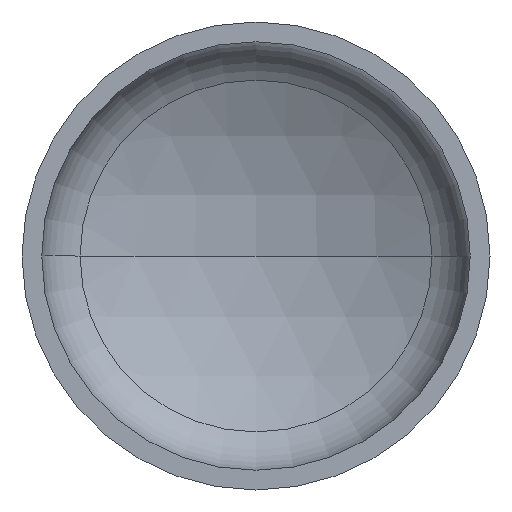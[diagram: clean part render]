
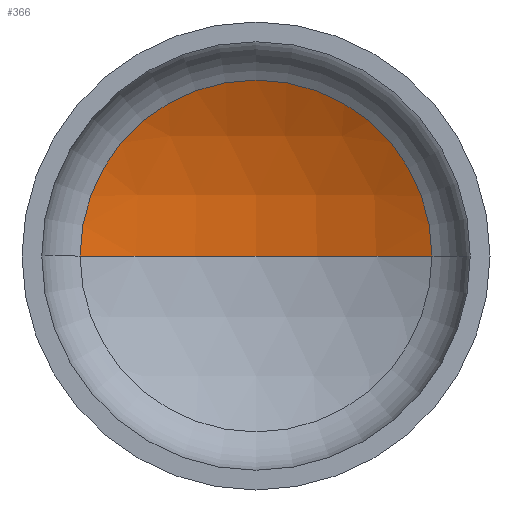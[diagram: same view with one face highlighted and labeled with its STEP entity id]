
A CAD part, front view. The second image highlights one B-rep face of the part: STEP entity #366.
In plain terms, the highlighted spherical face has radius 284 mm.
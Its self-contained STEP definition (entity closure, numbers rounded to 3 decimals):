
#14 = ORIENTED_EDGE ( 'NONE', *, *, #152, .T. ) ;
#21 = EDGE_LOOP ( 'NONE', ( #119, #14, #94 ) ) ;
#22 = DIRECTION ( 'NONE',  ( 1., 0., 0. ) ) ;
#79 = DIRECTION ( 'NONE',  ( 0., 0., 1. ) ) ;
#88 = AXIS2_PLACEMENT_3D ( 'NONE', #281, #79, #22 ) ;
#92 = AXIS2_PLACEMENT_3D ( 'NONE', #225, #228, #221 ) ;
#94 = ORIENTED_EDGE ( 'NONE', *, *, #151, .T. ) ;
#98 = AXIS2_PLACEMENT_3D ( 'NONE', #205, #303, #300 ) ;
#106 = VERTEX_POINT ( 'NONE', #241 ) ;
#118 = VERTEX_POINT ( 'NONE', #239 ) ;
#119 = ORIENTED_EDGE ( 'NONE', *, *, #156, .F. ) ;
#141 = CARTESIAN_POINT ( 'NONE',  ( 0., -157.04, 0. ) ) ;
#151 = EDGE_CURVE ( 'NONE', #106, #264, #310, .T. ) ;
#152 = EDGE_CURVE ( 'NONE', #118, #106, #362, .T. ) ;
#156 = EDGE_CURVE ( 'NONE', #118, #264, #357, .T. ) ;
#166 = AXIS2_PLACEMENT_3D ( 'NONE', #141, #240, #393 ) ;
#193 = SPHERICAL_SURFACE ( 'NONE', #166, 284. ) ;
#205 = CARTESIAN_POINT ( 'NONE',  ( 0., 93.525, 0. ) ) ;
#221 = DIRECTION ( 'NONE',  ( -1., 0., 0. ) ) ;
#225 = CARTESIAN_POINT ( 'NONE',  ( 0., -157.04, 0. ) ) ;
#228 = DIRECTION ( 'NONE',  ( 0., 0., -1. ) ) ;
#239 = CARTESIAN_POINT ( 'NONE',  ( 0., 126.96, 0. ) ) ;
#240 = DIRECTION ( 'NONE',  ( 0., 0., -1. ) ) ;
#241 = CARTESIAN_POINT ( 'NONE',  ( 133.691, 93.525, 0. ) ) ;
#264 = VERTEX_POINT ( 'NONE', #391 ) ;
#281 = CARTESIAN_POINT ( 'NONE',  ( 0., -157.04, 0. ) ) ;
#300 = DIRECTION ( 'NONE',  ( 1., 0., 0. ) ) ;
#303 = DIRECTION ( 'NONE',  ( 0., -1., 0. ) ) ;
#310 = CIRCLE ( 'NONE', #98, 133.691 ) ;
#313 = FACE_OUTER_BOUND ( 'NONE', #21, .T. ) ;
#357 = CIRCLE ( 'NONE', #88, 284. ) ;
#362 = CIRCLE ( 'NONE', #92, 284. ) ;
#366 = ADVANCED_FACE ( 'NONE', ( #313 ), #193, .F. ) ;
#391 = CARTESIAN_POINT ( 'NONE',  ( -133.691, 93.525, 0. ) ) ;
#393 = DIRECTION ( 'NONE',  ( -1., 0., 0. ) ) ;
